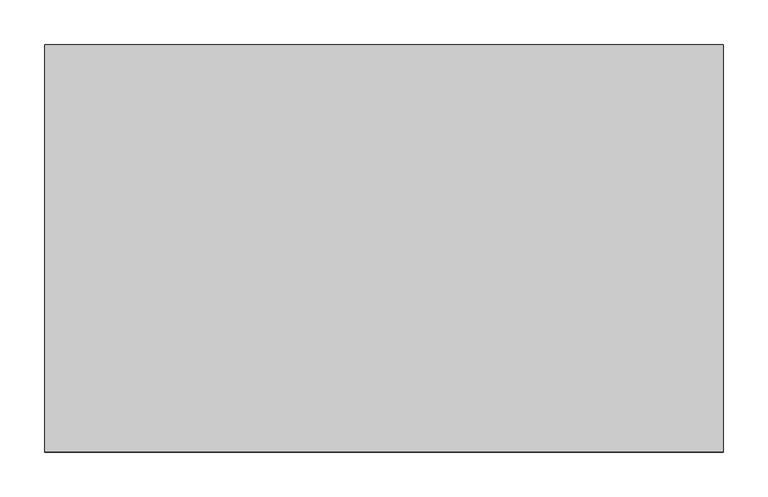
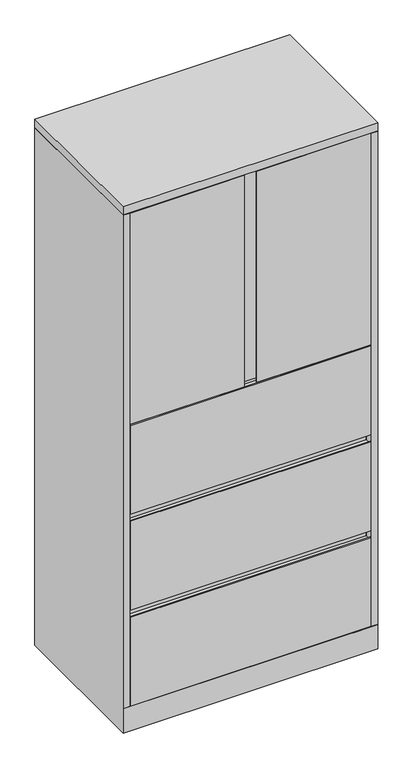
"""IFC4 building model written with IfcOpenShell, lengths in millimetres: furniture geometry, Steelcase - Universal Storage - Cabinet - Combination - Flush Steel : 65 1/2H - 3 Drawers - 18D x 30W."""

from ifc_helpers import new_model, si_unit, frame, origin, place, context, project, spatial, polyline, outline, extrude, faceted_brep, source, transform, mapped, element, save


def furniture_53b4a8d6(model_context):
    return source(origin(), model_context, "Body", "SolidModel", [
        extrude(outline(polyline([(21.8068168, -431.673866), (741.172, -431.673866), (741.172, -457.2), (400.05, -457.2), (400.05, -452.883482), (413.2189152, -452.883482), (413.2189152, -438.0238781), (361.95, -438.0238781), (361.95, -457.2), (21.8068168, -457.2), (21.8068168, -431.673866)])), frame((0.0, 0.0, 968.756), z_axis=(0.0, 0.0, 1.0), x_axis=(1.0, 0.0, 0.0)), (0.0, 0.0, 1.0), 668.02),
        extrude(outline(polyline([(762.0, 0.0), (762.0, -457.2), (0.0, -457.2), (0.0, 0.0), (762.0, 0.0)])), frame((0.0, 0.0, 1638.2999516), z_axis=(0.0, 0.0, 1.0), x_axis=(1.0, 0.0, 0.0)), (0.0, 0.0, 1.0), 25.4000484),
        extrude(outline(polyline([(-457.2, 358.7750484), (-454.0242491, 358.7750484), (-454.0242491, 349.2500484), (-431.673866, 349.2500484), (-431.673866, 381.0), (-430.1498674, 381.0), (-430.1498674, 349.2500484), (-430.1498674, 77.724), (-457.2, 77.724), (-457.2, 358.7750484)])), frame((20.8280006, 0.0, 0.0), z_axis=(1.0, 0.0, 0.0), x_axis=(0.0, 1.0, 0.0)), (0.0, 0.0, 1.0), 720.3439994),
        extrude(outline(polyline([(736.6000242, -25.4000008), (736.6000242, -430.1498674), (25.4000008, -430.1498674), (25.4000008, -25.4000008), (736.6000242, -25.4000008)])), frame((0.0, 0.0, 358.7750484), z_axis=(0.0, 0.0, 1.0), x_axis=(1.0, 0.0, 0.0)), (0.0, 0.0, 1.0), 22.2249516),
        extrude(outline(polyline([(736.6000242, -25.4000008), (736.6000242, -430.1498674), (25.4000008, -430.1498674), (25.4000008, -25.4000008), (736.6000242, -25.4000008)])), frame((0.0, 0.0, 1268.6030484), z_axis=(0.0, 0.0, 1.0), x_axis=(1.0, 0.0, 0.0)), (0.0, 0.0, 1.0), 22.2249516),
        extrude(outline(polyline([(-457.2, 965.3270484), (-454.0242491, 965.3270484), (-454.0242491, 955.8020484), (-431.673866, 955.8020484), (-431.673866, 987.552), (-430.1498674, 987.552), (-430.1498674, 955.8020484), (-430.1498674, 684.276), (-457.2, 684.276), (-457.2, 965.3270484)])), frame((20.8280006, 0.0, 0.0), z_axis=(1.0, 0.0, 0.0), x_axis=(0.0, 1.0, 0.0)), (0.0, 0.0, 1.0), 720.3439994),
        extrude(outline(polyline([(736.6000242, -25.4000008), (736.6000242, -430.1498674), (25.4000008, -430.1498674), (25.4000008, -25.4000008), (736.6000242, -25.4000008)])), frame((0.0, 0.0, 965.3270484), z_axis=(0.0, 0.0, 1.0), x_axis=(1.0, 0.0, 0.0)), (0.0, 0.0, 1.0), 22.2249516),
        extrude(outline(polyline([(-457.2, 662.0510484), (-454.0242491, 662.0510484), (-454.0242491, 652.5260484), (-431.673866, 652.5260484), (-431.673866, 684.276), (-430.1498674, 684.276), (-430.1498674, 652.5260484), (-430.1498674, 381.0), (-457.2, 381.0), (-457.2, 662.0510484)])), frame((20.8280006, 0.0, 0.0), z_axis=(1.0, 0.0, 0.0), x_axis=(0.0, 1.0, 0.0)), (0.0, 0.0, 1.0), 720.3439994),
        faceted_brep([(762.0, 0.0, 0.0), (762.0, -457.2, 0.0), (0.0, -457.2, 0.0), (0.0, 0.0, 0.0), (0.0, 0.0, 1636.776), (762.0, 0.0, 1636.776), (0.0, -457.2, 76.2), (0.0, -457.2, 77.724), (0.0, -457.2, 1636.776), (762.0, -457.2, 76.2), (762.0, -457.2, 1636.776), (762.0, -457.2, 77.724), (736.6000242, -25.4000008, 1636.776), (736.6000242, -430.1498674, 1636.776), (741.172, -430.1498674, 1636.776), (741.172, -431.6738781, 1636.776), (742.696, -431.6738781, 1636.776), (742.696, -457.2, 1636.776), (19.304, -457.2, 1636.776), (19.304, -431.673866, 1636.776), (20.8280006, -431.673866, 1636.776), (20.8280006, -430.1498674, 1636.776), (25.4000008, -430.1498674, 1636.776), (25.4000008, -25.4000008, 1636.776), (19.304, -457.2, 77.724), (19.304, -437.896, 77.724), (742.696, -457.2, 77.724), (742.696, -437.7698418, 77.724), (736.6000242, -25.4000008, 77.724), (736.6000242, -430.1498674, 77.724), (741.172, -430.1498674, 77.724), (741.172, -431.6738781, 77.724), (742.696, -431.6738781, 77.724), (19.304, -431.673866, 77.724), (20.8280006, -431.673866, 77.724), (20.8280006, -430.1498674, 77.724), (25.4000008, -430.1498674, 77.724), (25.4000008, -25.4000008, 77.724), (25.526134, -431.673866, 77.724), (736.6000242, -431.673866, 77.724)], [[[0, 1, 2, 3]], [[0, 3, 4, 5]], [[4, 3, 2, 6, 7, 8]], [[2, 1, 9, 6]], [[1, 0, 5, 10, 11, 9]], [[12, 13, 14, 15, 16, 17, 10, 5, 4, 8, 18, 19, 20, 21, 22, 23]], [[24, 7, 25]], [[11, 26, 27]], [[13, 12, 28, 29]], [[14, 13, 29, 30]], [[15, 14, 30, 31]], [[16, 15, 31, 32]], [[17, 16, 32, 27, 26]], [[10, 17, 26, 11]], [[18, 8, 7, 24]], [[19, 18, 24, 25, 33]], [[20, 19, 33, 34]], [[21, 20, 34, 35]], [[22, 21, 35, 36]], [[23, 22, 36, 37]], [[12, 23, 37, 28]], [[38, 39, 27, 32, 31, 30, 29, 28, 37, 36, 35, 34, 33, 25]], [[7, 6, 38, 25]], [[39, 38, 6, 9]], [[39, 9, 11, 27]]]),
    ])


if __name__ == "__main__":
    model = new_model("IFC4")
    model_context = context("Model", 3, world=origin())
    ifc_project = project(units=[si_unit("LENGTHUNIT", "METRE", prefix="MILLI")], contexts=[model_context])
    site = spatial("IfcSite", under=ifc_project)
    building = spatial("IfcBuilding", under=site)
    placement = place(None, origin())
    furniture_shape = furniture_53b4a8d6(model_context)
    element("IfcFurniture", 1, ObjectType="Steelcase - Universal Storage - Cabinet - Combination - Flush Steel : 65 1/2H - 3 Drawers - 18D x 30W", at=placement, inside=building, context=model_context, shape_type="MappedRepresentation", body=[
        mapped(furniture_shape, transform((0.0, 0.0, 0.0), x_axis=(1.0, 0.0, 0.0), y_axis=(0.0, 1.0, 0.0), z_axis=(0.0, 0.0, 1.0))),
    ])
    save(model, "model.ifc")
